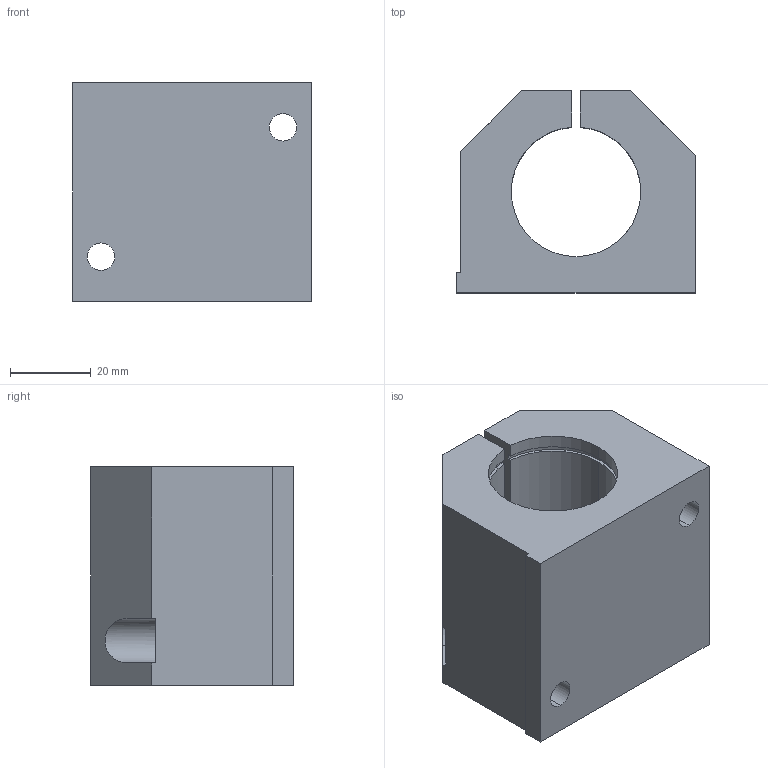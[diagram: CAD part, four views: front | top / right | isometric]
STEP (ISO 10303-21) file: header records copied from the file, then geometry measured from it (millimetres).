
FILE_DESCRIPTION (( 'STEP AP214' ), '1' );
FILE_NAME ('KGE36-20.step', '2020-03-04T13:20:10', ( '' ), ( '' ), 'SwSTEP 2.0', 'SolidWorks 2019', '' );
FILE_SCHEMA (( 'AUTOMOTIVE_DESIGN' ));
Length unit declared in the file: millimetre
Products named in the file (1): KGE36-20
Bounding box: 59 x 50 x 54 mm (x, y, z)
Volume: 93557.2 mm3; surface area: 23500.9 mm2
Topology: 1 solids, 1 shells, 59 faces, 160 edges, 103 vertices
Faces by surface type: cylinder 31, plane 24, cone 4
Entity records: 2048 total; most frequent: CARTESIAN_POINT 395, DIRECTION 328, ORIENTED_EDGE 316, EDGE_CURVE 158, AXIS2_PLACEMENT_3D 116, VERTEX_POINT 103, VECTOR 96, LINE 96
